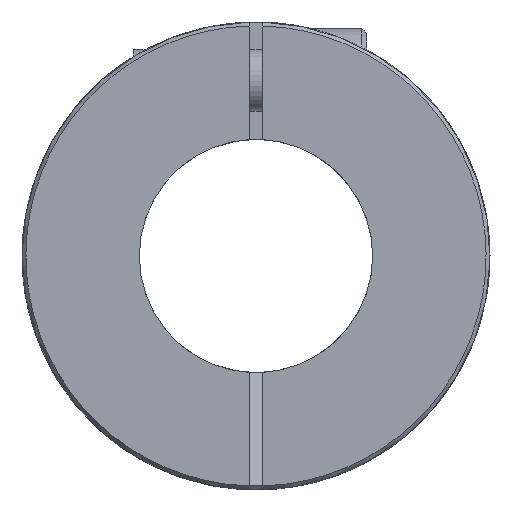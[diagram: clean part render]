
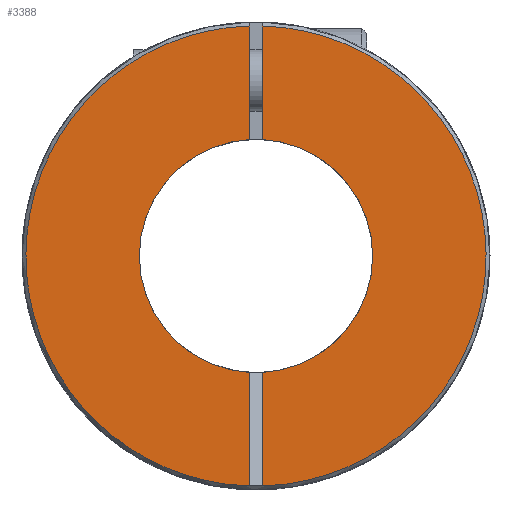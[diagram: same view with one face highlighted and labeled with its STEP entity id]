
A CAD part, front view. The second image highlights one B-rep face of the part: STEP entity #3388.
In plain terms, the highlighted planar face has unit normal (0, -1, 0).
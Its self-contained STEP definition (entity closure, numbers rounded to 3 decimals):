
#1=DIRECTION('',(0.,0.,-1.));
#2=VECTOR('',#1,9.237);
#3=CARTESIAN_POINT('',(-0.5,-33.35,18.723));
#4=LINE('',#3,#2);
#5=CARTESIAN_POINT('',(0.,-33.35,0.));
#6=DIRECTION('',(0.,1.,0.));
#7=DIRECTION('',(-1.,0.,0.));
#8=AXIS2_PLACEMENT_3D('',#5,#6,#7);
#10=CARTESIAN_POINT('',(0.,-33.35,0.));
#11=DIRECTION('',(0.,1.,0.));
#12=DIRECTION('',(-0.053,0.,-0.999));
#13=AXIS2_PLACEMENT_3D('',#10,#11,#12);
#15=DIRECTION('',(0.,0.,-1.));
#16=VECTOR('',#15,9.213);
#17=CARTESIAN_POINT('',(-0.5,-33.35,-9.487));
#18=LINE('',#17,#16);
#19=DIRECTION('',(1.,0.,0.));
#20=VECTOR('',#19,1.);
#21=CARTESIAN_POINT('',(-0.5,-33.35,-18.7));
#22=LINE('',#21,#20);
#23=DIRECTION('',(0.,0.,-1.));
#24=VECTOR('',#23,9.213);
#25=CARTESIAN_POINT('',(0.5,-33.35,-9.487));
#26=LINE('',#25,#24);
#27=DIRECTION('',(0.,0.,-1.));
#28=VECTOR('',#27,9.237);
#29=CARTESIAN_POINT('',(0.5,-33.35,18.723));
#30=LINE('',#29,#28);
#54=CARTESIAN_POINT('',(0.,-33.35,0.));
#55=DIRECTION('',(0.,1.,0.));
#56=DIRECTION('',(0.053,0.,0.999));
#57=AXIS2_PLACEMENT_3D('',#54,#55,#56);
#2879=CARTESIAN_POINT('',(0.,-33.35,0.));
#2880=DIRECTION('',(0.,-1.,0.));
#2881=DIRECTION('',(-0.027,0.,1.));
#2882=AXIS2_PLACEMENT_3D('',#2879,#2880,#2881);
#3039=CARTESIAN_POINT('',(-9.5,-33.35,0.));
#3040=VERTEX_POINT('',#3039);
#3112=CARTESIAN_POINT('',(-0.5,-33.35,-18.7));
#3114=VERTEX_POINT('',#3112);
#3116=CARTESIAN_POINT('',(0.5,-33.35,-18.7));
#3118=VERTEX_POINT('',#3116);
#3163=CARTESIAN_POINT('',(-0.5,-33.35,18.723));
#3164=CARTESIAN_POINT('',(-0.5,-33.35,9.487));
#3165=VERTEX_POINT('',#3163);
#3166=VERTEX_POINT('',#3164);
#3167=CARTESIAN_POINT('',(-0.5,-33.35,-9.487));
#3168=VERTEX_POINT('',#3167);
#3169=CARTESIAN_POINT('',(0.5,-33.35,18.723));
#3170=CARTESIAN_POINT('',(0.5,-33.35,9.487));
#3171=VERTEX_POINT('',#3169);
#3172=VERTEX_POINT('',#3170);
#3173=CARTESIAN_POINT('',(0.5,-33.35,-9.487));
#3174=VERTEX_POINT('',#3173);
#3363=CARTESIAN_POINT('',(0.,-33.35,0.));
#3364=DIRECTION('',(0.,1.,0.));
#3365=DIRECTION('',(1.,0.,0.));
#3366=AXIS2_PLACEMENT_3D('',#3363,#3364,#3365);
#3367=PLANE('',#3366);
#3369=ORIENTED_EDGE('',*,*,#3368,.T.);
#3371=ORIENTED_EDGE('',*,*,#3370,.F.);
#3373=ORIENTED_EDGE('',*,*,#3372,.F.);
#3375=ORIENTED_EDGE('',*,*,#3374,.T.);
#3377=ORIENTED_EDGE('',*,*,#3376,.T.);
#3379=ORIENTED_EDGE('',*,*,#3378,.F.);
#3381=ORIENTED_EDGE('',*,*,#3380,.F.);
#3383=ORIENTED_EDGE('',*,*,#3382,.F.);
#3385=ORIENTED_EDGE('',*,*,#3384,.F.);
#3386=EDGE_LOOP('',(#3369,#3371,#3373,#3375,#3377,#3379,#3381,#3383,#3385));
#3387=FACE_OUTER_BOUND('',#3386,.F.);
#3388=ADVANCED_FACE('',(#3387),#3367,.F.);
#9=CIRCLE('',#8,9.5);
#14=CIRCLE('',#13,9.5);
#58=CIRCLE('',#57,9.5);
#2883=CIRCLE('',#2882,18.73);
#3368=EDGE_CURVE('',#3165,#3166,#4,.T.);
#3370=EDGE_CURVE('',#3040,#3166,#9,.T.);
#3372=EDGE_CURVE('',#3168,#3040,#14,.T.);
#3374=EDGE_CURVE('',#3168,#3114,#18,.T.);
#3376=EDGE_CURVE('',#3114,#3118,#22,.T.);
#3378=EDGE_CURVE('',#3174,#3118,#26,.T.);
#3380=EDGE_CURVE('',#3172,#3174,#58,.T.);
#3382=EDGE_CURVE('',#3171,#3172,#30,.T.);
#3384=EDGE_CURVE('',#3165,#3171,#2883,.T.);
